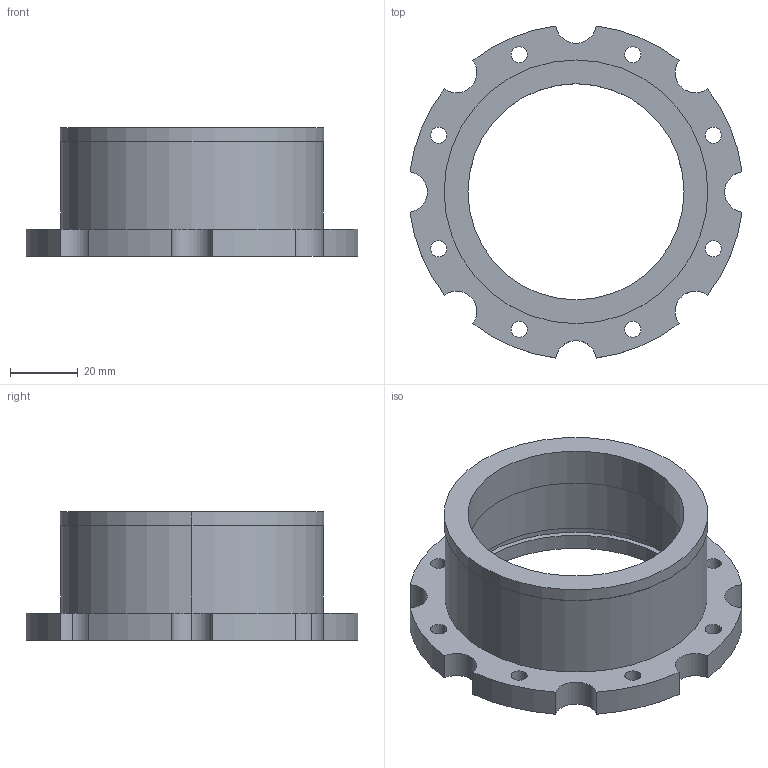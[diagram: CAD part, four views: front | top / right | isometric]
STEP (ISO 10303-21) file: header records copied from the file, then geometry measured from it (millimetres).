
FILE_DESCRIPTION (( 'STEP AP203' ), '1' );
FILE_NAME ('SRB160-CARRIER-001.roundtrip.step', '2026-08-13T23:24:51', ( '' ), ( '' ), 'SwSTEP 2.0', 'SolidWorks 2026', '' );
FILE_SCHEMA (( 'CONFIG_CONTROL_DESIGN' ));
Length unit declared in the file: millimetre
Products named in the file (1): SRB160-CARRIER-001.roundtrip
Bounding box: 98.28 x 98.28 x 38 mm (x, y, z)
Volume: 54146.3 mm3; surface area: 28140.2 mm2
Topology: 1 solids, 1 shells, 54 faces, 141 edges, 94 vertices
Faces by surface type: cylinder 47, plane 7
Entity records: 1832 total; most frequent: DIRECTION 345, CARTESIAN_POINT 290, ORIENTED_EDGE 282, AXIS2_PLACEMENT_3D 149, EDGE_CURVE 141, CIRCLE 94, VERTEX_POINT 94, EDGE_LOOP 77
